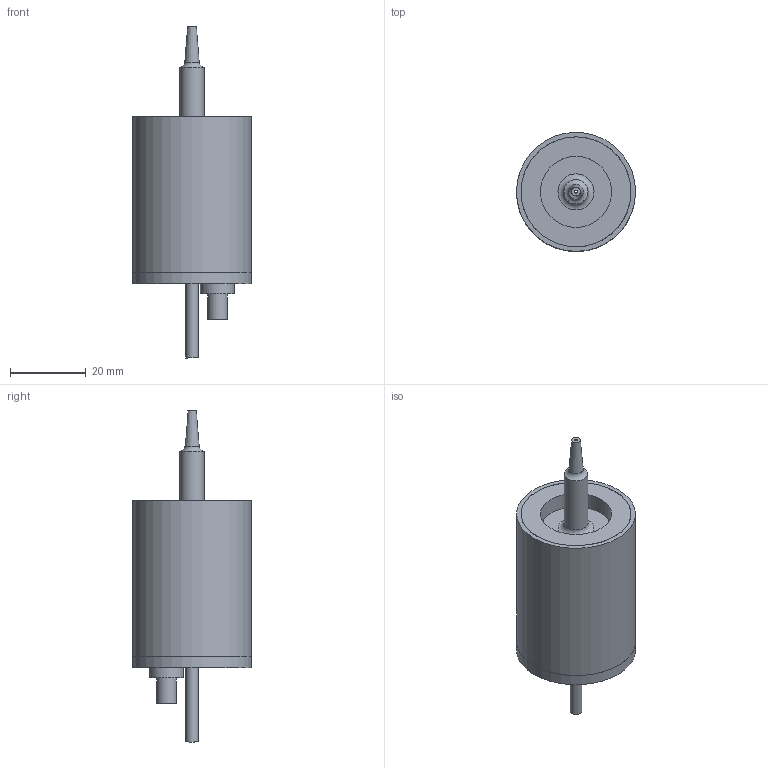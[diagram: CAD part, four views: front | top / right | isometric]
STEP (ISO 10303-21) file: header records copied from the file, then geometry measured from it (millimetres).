
FILE_DESCRIPTION((''),'2;1');
FILE_NAME('Y:\Desktop\AutoDesk\Atomizer Nozzles\LF130KT\LF130KT Atomizer Nozzle.stp','2019-12-16T15:16:18',('Owner'),(''),'Autodesk Inventor 2013','Autodesk Inventor 2013','');
FILE_SCHEMA(('AUTOMOTIVE_DESIGN { 1 0 10303 214 1 1 1 1 }'));
Length unit declared in the file: inch
Products named in the file (16): LF130KT Atomizer Nozzle; SON01372 130kHz Tapered Atomizer Front Driver; AS568A-003; Electrode; Crystal; SON00984C 130kHz Atomizer Rear Driver; SON00924A  Probe Isolator; AS568A-022; SON00922C Probe Case; SON00923C CASE RING; SON00927E Atomizer Rear Cover; 1-64 screw; AS568A-009; electrical connector; SON00928C Atomizer Tube; SON00930E O-Ring Nut
Assembly tree (21 placements, depth 2):
  LF130KT Atomizer Nozzle
    SON01372 130kHz Tapered Atomizer Front Driver
    AS568A-003
    Electrode  x2
    Crystal  x2
    SON00984C 130kHz Atomizer Rear Driver
    SON00924A  Probe Isolator
    AS568A-022  x2
    SON00922C Probe Case
    SON00923C CASE RING
    SON00927E Atomizer Rear Cover
    1-64 screw  x4
    AS568A-009
    electrical connector
    SON00928C Atomizer Tube
    SON00930E O-Ring Nut
Bounding box: 31.5 x 31.5 x 87.83 mm (x, y, z)
Volume: 22147.1 mm3; surface area: 21358.1 mm2
Topology: 21 solids, 21 shells, 216 faces, 406 edges, 259 vertices
Faces by surface type: plane 113, cylinder 78, torus 14, cone 11
Full cylindrical faces by diameter (mm): 0.762 x1, 0.889 x2, 1.016 x2, 1.854 x8, 1.93 x4, 2.083 x1, 2.362 x1, 2.381 x1, 2.946 x2, 2.997 x4, 3.048 x4, 3.175 x2, 4.115 x1, 4.623 x1, 4.763 x1, 5.182 x1, 5.461 x1, 5.588 x2, 6.35 x5, 7.62 x2, 7.747 x2, 8.731 x1, 8.992 x1, 10.16 x1, 18.796 x1, 19.05 x5, 20.574 x1, 21.463 x1, 21.59 x1, 25.4 x3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
Entity records: 4171 total; most frequent: DIRECTION 748, CARTESIAN_POINT 582, ORIENTED_EDGE 422, AXIS2_PLACEMENT_3D 342, EDGE_LOOP 289, EDGE_CURVE 211, VERTEX_POINT 176, FACE_OUTER_BOUND 158
